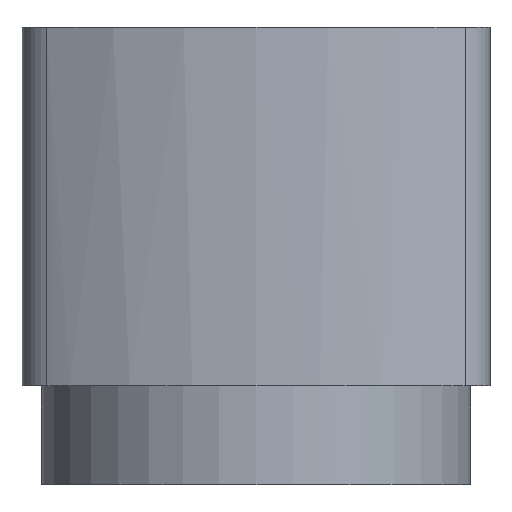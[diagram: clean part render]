
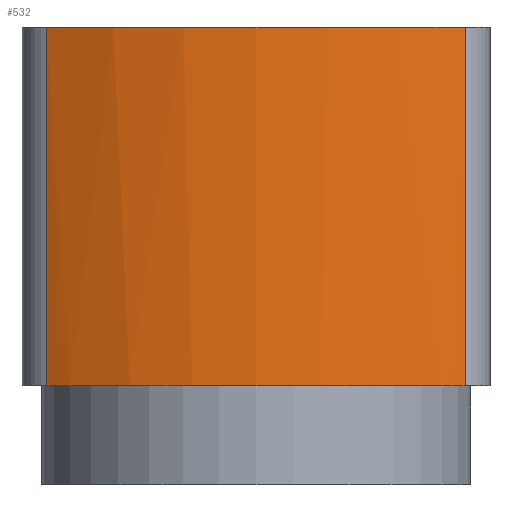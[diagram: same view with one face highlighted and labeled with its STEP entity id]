
A CAD part, left-side view. The second image highlights one B-rep face of the part: STEP entity #532.
In plain terms, the highlighted cylindrical face has radius 13.5 mm (diameter 27 mm), a partial arc.
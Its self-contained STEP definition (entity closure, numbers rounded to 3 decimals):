
#362=CARTESIAN_POINT('Vertex',(-11.818,-6.525,-11.)) ;
#367=CARTESIAN_POINT('Axis2P3D Location',(0.,0.,-11.)) ;
#371=CARTESIAN_POINT('Vertex',(-12.191,-5.8,-11.)) ;
#374=CARTESIAN_POINT('Axis2P3D Location',(0.,0.,-11.)) ;
#378=CARTESIAN_POINT('Vertex',(-13.5,0.,-11.)) ;
#381=CARTESIAN_POINT('Axis2P3D Location',(0.,0.,-11.)) ;
#385=CARTESIAN_POINT('Vertex',(-12.191,5.8,-11.)) ;
#388=CARTESIAN_POINT('Axis2P3D Location',(0.,0.,-11.)) ;
#392=CARTESIAN_POINT('Vertex',(-11.818,6.525,-11.)) ;
#491=CARTESIAN_POINT('Axis2P3D Location',(0.,0.,-6.949)) ;
#496=CARTESIAN_POINT('Axis2P3D Location',(0.,0.,0.18)) ;
#500=CARTESIAN_POINT('Vertex',(-13.5,0.,0.18)) ;
#502=CARTESIAN_POINT('Vertex',(-11.818,-6.525,0.18)) ;
#505=CARTESIAN_POINT('Axis2P3D Location',(0.,0.,0.18)) ;
#509=CARTESIAN_POINT('Vertex',(-11.818,6.525,0.18)) ;
#512=CARTESIAN_POINT('Line Origine',(-11.818,6.525,-9.5)) ;
#517=CARTESIAN_POINT('Line Origine',(-11.818,-6.525,-9.5)) ;
#514=VECTOR('Line Direction',#513,1.) ;
#519=VECTOR('Line Direction',#518,1.) ;
#368=DIRECTION('Axis2P3D Direction',(0.,0.,1.)) ;
#375=DIRECTION('Axis2P3D Direction',(0.,0.,1.)) ;
#382=DIRECTION('Axis2P3D Direction',(0.,0.,1.)) ;
#389=DIRECTION('Axis2P3D Direction',(0.,0.,1.)) ;
#492=DIRECTION('Axis2P3D Direction',(0.,0.,1.)) ;
#493=DIRECTION('Axis2P3D XDirection',(-1.,0.,0.)) ;
#497=DIRECTION('Axis2P3D Direction',(0.,0.,1.)) ;
#506=DIRECTION('Axis2P3D Direction',(0.,0.,1.)) ;
#513=DIRECTION('Vector Direction',(0.,0.,1.)) ;
#518=DIRECTION('Vector Direction',(0.,0.,1.)) ;
#369=AXIS2_PLACEMENT_3D('Circle Axis2P3D',#367,#368,$) ;
#376=AXIS2_PLACEMENT_3D('Circle Axis2P3D',#374,#375,$) ;
#383=AXIS2_PLACEMENT_3D('Circle Axis2P3D',#381,#382,$) ;
#390=AXIS2_PLACEMENT_3D('Circle Axis2P3D',#388,#389,$) ;
#494=AXIS2_PLACEMENT_3D('Cylinder Axis2P3D',#491,#492,#493) ;
#498=AXIS2_PLACEMENT_3D('Circle Axis2P3D',#496,#497,$) ;
#507=AXIS2_PLACEMENT_3D('Circle Axis2P3D',#505,#506,$) ;
#515=LINE('Line',#512,#514) ;
#520=LINE('Line',#517,#519) ;
#370=CIRCLE('generated circle',#369,13.5) ;
#377=CIRCLE('generated circle',#376,13.5) ;
#384=CIRCLE('generated circle',#383,13.5) ;
#391=CIRCLE('generated circle',#390,13.5) ;
#499=CIRCLE('generated circle',#498,13.5) ;
#508=CIRCLE('generated circle',#507,13.5) ;
#495=CYLINDRICAL_SURFACE('generated cylinder',#494,13.5) ;
#373=EDGE_CURVE('',#372,#363,#370,.T.) ;
#380=EDGE_CURVE('',#379,#372,#377,.T.) ;
#387=EDGE_CURVE('',#379,#386,#384,.F.) ;
#394=EDGE_CURVE('',#386,#393,#391,.F.) ;
#504=EDGE_CURVE('',#501,#503,#499,.T.) ;
#511=EDGE_CURVE('',#501,#510,#508,.F.) ;
#516=EDGE_CURVE('',#510,#393,#515,.F.) ;
#521=EDGE_CURVE('',#503,#363,#520,.F.) ;
#523=ORIENTED_EDGE('',*,*,#504,.F.) ;
#524=ORIENTED_EDGE('',*,*,#511,.T.) ;
#525=ORIENTED_EDGE('',*,*,#516,.T.) ;
#526=ORIENTED_EDGE('',*,*,#394,.F.) ;
#527=ORIENTED_EDGE('',*,*,#387,.F.) ;
#528=ORIENTED_EDGE('',*,*,#380,.T.) ;
#529=ORIENTED_EDGE('',*,*,#373,.T.) ;
#530=ORIENTED_EDGE('',*,*,#521,.F.) ;
#522=EDGE_LOOP('',(#523,#524,#525,#526,#527,#528,#529,#530)) ;
#363=VERTEX_POINT('',#362) ;
#372=VERTEX_POINT('',#371) ;
#379=VERTEX_POINT('',#378) ;
#386=VERTEX_POINT('',#385) ;
#393=VERTEX_POINT('',#392) ;
#501=VERTEX_POINT('',#500) ;
#503=VERTEX_POINT('',#502) ;
#510=VERTEX_POINT('',#509) ;
#532=ADVANCED_FACE('\X2\FF8AFF9FFF70FF82\X0\ \X2\FF8EFF9EFF83FF9EFF68FF70\X0\',(#531),#495,.T.) ;
#531=FACE_OUTER_BOUND('',#522,.T.) ;
